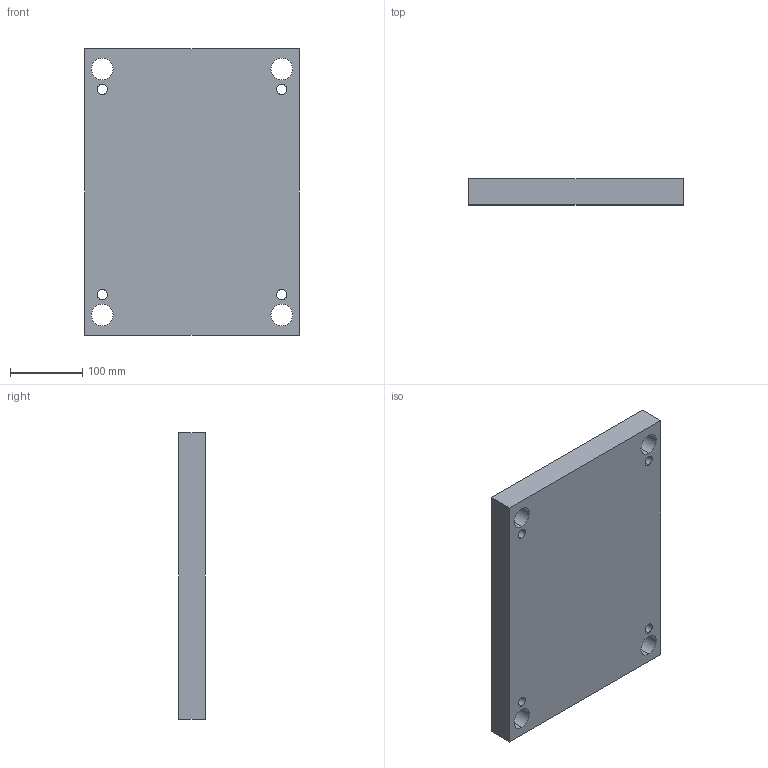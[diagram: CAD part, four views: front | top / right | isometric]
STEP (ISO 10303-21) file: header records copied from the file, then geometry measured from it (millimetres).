
FILE_DESCRIPTION (( 'STEP AP214' ), '1' );
FILE_NAME ('L45_296x396x036.STEP', '2018-10-05T18:39:40', ( '' ), ( '' ), 'SwSTEP 2.0', 'SolidWorks 2014', '' );
FILE_SCHEMA (( 'AUTOMOTIVE_DESIGN' ));
Length unit declared in the file: millimetre
Products named in the file (1): L45_296x396x036
Bounding box: 296 x 36 x 396 mm (x, y, z)
Volume: 4095821.3 mm3; surface area: 297274.8 mm2
Topology: 1 solids, 1 shells, 22 faces, 60 edges, 40 vertices
Faces by surface type: cylinder 16, plane 6
Entity records: 782 total; most frequent: DIRECTION 138, CARTESIAN_POINT 123, ORIENTED_EDGE 120, EDGE_CURVE 60, AXIS2_PLACEMENT_3D 55, VERTEX_POINT 40, EDGE_LOOP 38, CIRCLE 32
